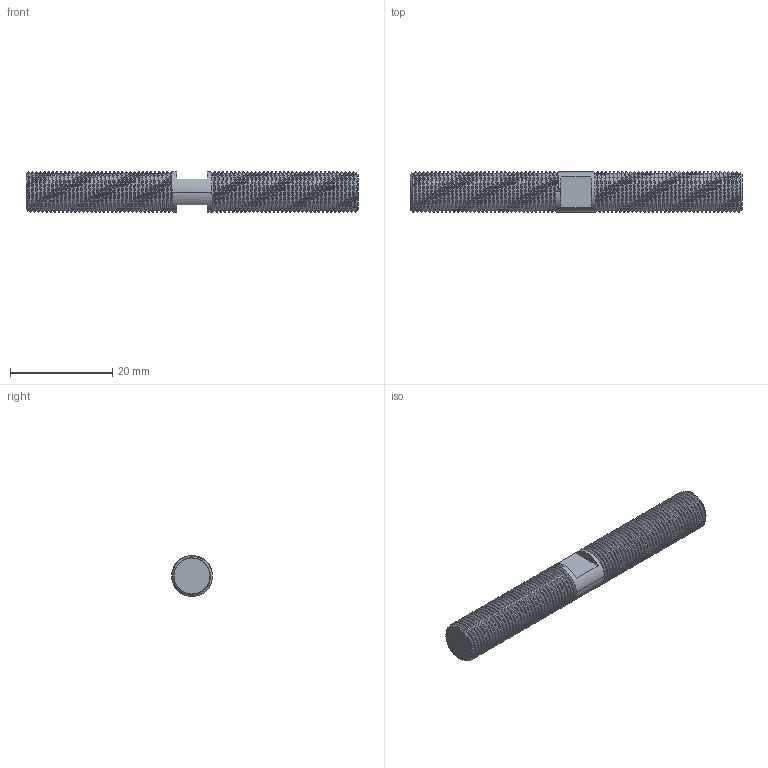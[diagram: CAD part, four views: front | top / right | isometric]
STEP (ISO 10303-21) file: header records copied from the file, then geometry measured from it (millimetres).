
FILE_DESCRIPTION (( 'STEP AP203' ), '1' );
FILE_NAME ('3D_GS5594_M8_188500607.STEP', '2024-09-24T10:13:24', ( '' ), ( '' ), 'SwSTEP 2.0', 'SolidWorks 2024', '' );
FILE_SCHEMA (( 'CONFIG_CONTROL_DESIGN' ));
Length unit declared in the file: millimetre
Products named in the file (1): 3D_GS5594_M8_188500607
Bounding box: 65 x 8 x 8 mm (x, y, z)
Volume: 2854.4 mm3; surface area: 2492 mm2
Topology: 1 solids, 1 shells, 162 faces, 474 edges, 316 vertices
Faces by surface type: cylinder 142, plane 10, bspline 6, cone 4
Entity records: 16363 total; most frequent: CARTESIAN_POINT 12909, ORIENTED_EDGE 948, DIRECTION 486, EDGE_CURVE 474, VERTEX_POINT 316, AXIS2_PLACEMENT_3D 165, EDGE_LOOP 164, ADVANCED_FACE 162
